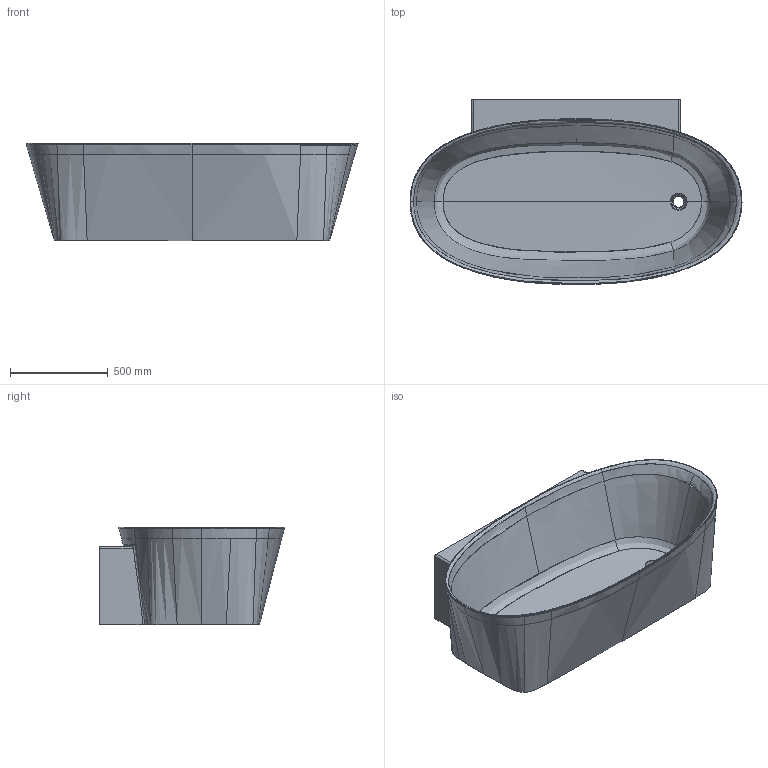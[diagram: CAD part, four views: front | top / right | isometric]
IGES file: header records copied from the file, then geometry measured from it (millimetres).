
Start section: Data from Parasolid IGES Translator 19.0.9, Copyright(c) 2006 Siemens PL M Software. All Rights Reserved.
Global section: file name: noorth-bathtub-H 50 D 97 W 170_2015.igs; native system: By Siemens PLM Incorporated; preprocessor: XPlus GENERIC/IGES 19.0.9; author: Noname; organization: Noname; date: 20200518.114645; units: metre
Bounding box: 1698.53 x 947.85 x 500 mm (x, y, z)
Surface area: 5784509.1 mm2 (no closed solid volume)
Topology: 0 solids, 0 shells, 231 faces, 1207 edges, 1198 vertices
Faces by surface type: bspline 168, revolution 41, extrusion 22
